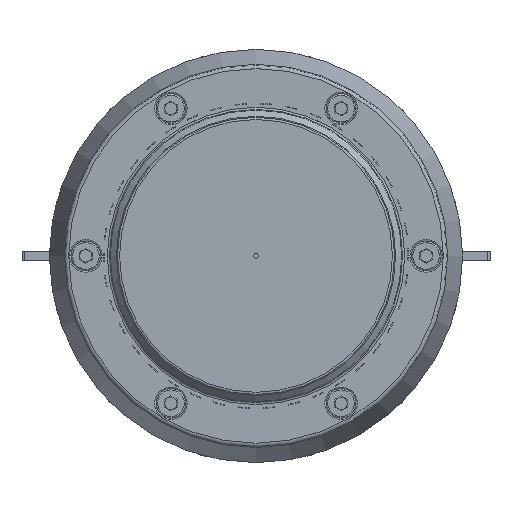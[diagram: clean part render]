
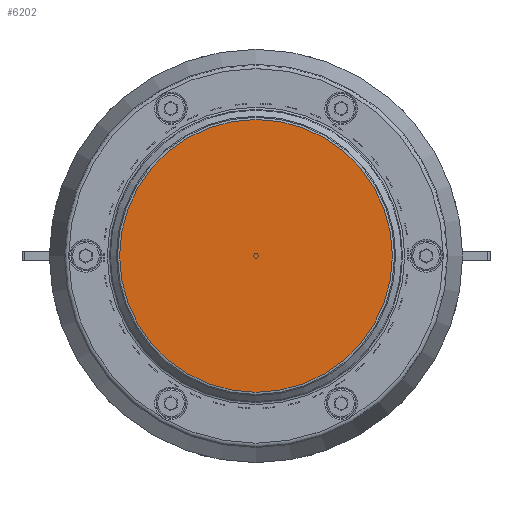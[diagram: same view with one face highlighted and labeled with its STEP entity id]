
A CAD part, top view. The second image highlights one B-rep face of the part: STEP entity #6202.
In plain terms, the highlighted planar face has unit normal (0, 0, 1).
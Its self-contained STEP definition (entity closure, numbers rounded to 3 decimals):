
#6202=ADVANCED_FACE('',(#21191),#21193,.T.);
#21191=FACE_BOUND('',#21192,.T.);
#21192=EDGE_LOOP('',(#98311));
#21193=PLANE('',#21194);
#21194=AXIS2_PLACEMENT_3D('',#21195,#21196,#21197);
#21195=CARTESIAN_POINT('',(0.,0.,0.));
#21196=DIRECTION('',(0.,0.,1.));
#21197=DIRECTION('',(-1.,0.,0.));
#98311=ORIENTED_EDGE('',*,*,#105124,.F.);
#105124=EDGE_CURVE('',#112065,#112065,#112066,.T.);
#112065=VERTEX_POINT('',#150231);
#112066=CIRCLE('',#150232,179.515);
#150231=CARTESIAN_POINT('',(-179.515,0.,0.));
#150232=AXIS2_PLACEMENT_3D('',#150233,#150234,#150235);
#150233=CARTESIAN_POINT('',(0.,0.,0.));
#150234=DIRECTION('',(0.,0.,-1.));
#150235=DIRECTION('',(-1.,0.,0.));
